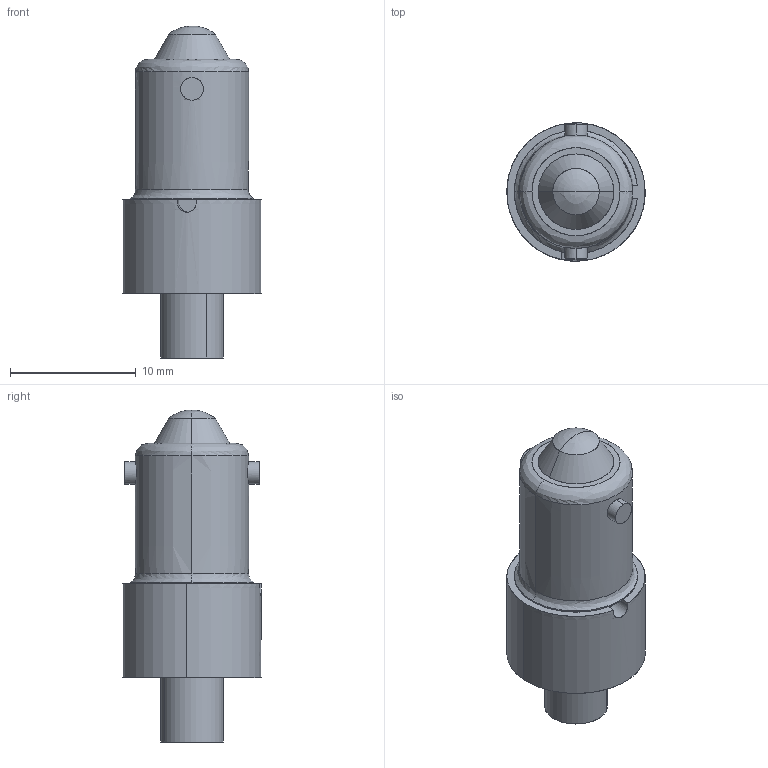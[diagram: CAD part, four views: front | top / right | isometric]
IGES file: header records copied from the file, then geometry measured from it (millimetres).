
Start section: SolidWorks IGES file using analytic representation for surfaces
Global section: file name: G:\Marl\DESIGN\Paul Robson\STEP-IGES FILES\214 Series\214 Series.IGS; native system: SolidWorks 2016; preprocessor: SolidWorks 2016; author: Paulr; date: 160803.100408; units: millimetre
Bounding box: 11 x 11 x 26.4 mm (x, y, z)
Surface area: 1974.5 mm2 (no closed solid volume)
Topology: 0 solids, 0 shells, 89 faces, 1315 edges, 1312 vertices
Faces by surface type: bspline 50, revolution 39
